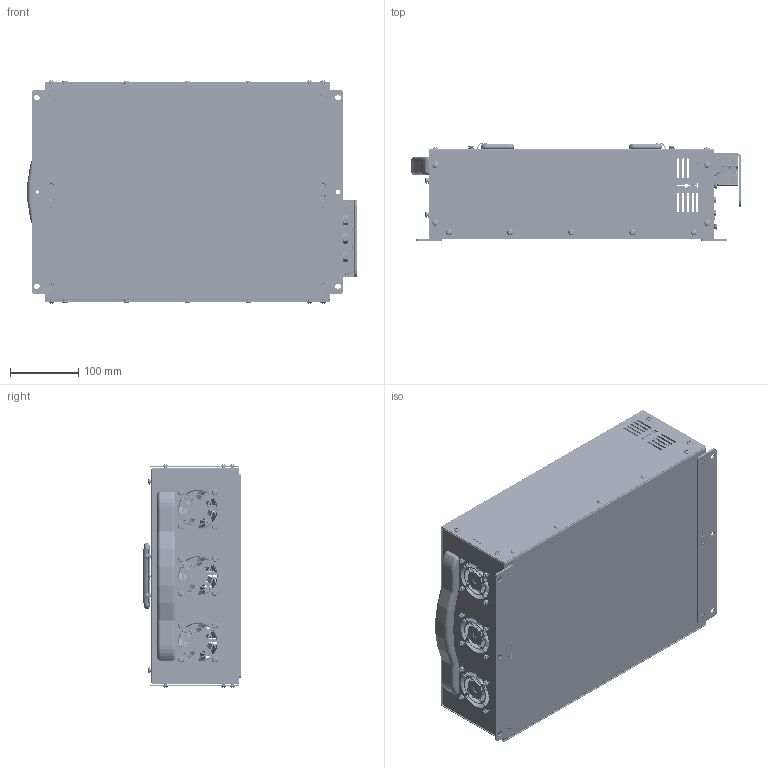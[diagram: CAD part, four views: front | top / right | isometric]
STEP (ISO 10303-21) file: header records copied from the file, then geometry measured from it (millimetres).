
FILE_DESCRIPTION(/* description */ (''),/* implementation_level */ '2;1');
FILE_NAME(/* name */ 'VX4COM ASS''Y_2026.04.21_Simplify_2.stp',/* time_stamp */ '2026-06-04T11:30:56+09:00',/* author */ ('jjang'),/* organization */ (''),/* preprocessor_version */ 'ST-DEVELOPER v20.1',/* originating_system */ 'Autodesk Inventor 2026',/* authorisation */ '');
FILE_SCHEMA (('AUTOMOTIVE_DESIGN { 1 0 10303 214 3 1 1 }'));
Products named in the file (1): VX4COM ASS'Y_2026.04.21_Simplify_2
Bounding box: 483.47 x 144.9 x 327.84 mm (x, y, z)
Volume: 1028868 mm3; surface area: 1247201.5 mm2
Topology: 19 solids, 19 shells, 7815 faces, 20619 edges, 13447 vertices
Faces by surface type: plane 4288, cylinder 1865, bspline 1260, torus 306, cone 54, sphere 42
Full cylindrical faces by diameter (mm): 0.013 x9, 0.6 x3, 0.609 x1, 0.61 x27, 0.635 x9, 0.7 x18, 0.75 x18, 0.85 x3, 0.9 x24, 1 x5, 1.397 x9, 1.5 x4, 2.1 x3, 2.286 x9, 2.5 x4, 2.8 x8, 2.957 x4, 3 x12, 3.048 x4, 3.3 x2, 3.4 x1, 3.6 x2, 3.783 x2, 3.8 x28, 3.9 x2, 4 x106, 4.3 x12, 4.5 x32, 5 x19, 5.3 x16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
Entity records: 283997 total; most frequent: CARTESIAN_POINT 86730, ORIENTED_EDGE 41192, DIRECTION 35867, EDGE_CURVE 20596, VERTEX_POINT 13447, LINE 12353, VECTOR 12353, AXIS2_PLACEMENT_3D 11757
